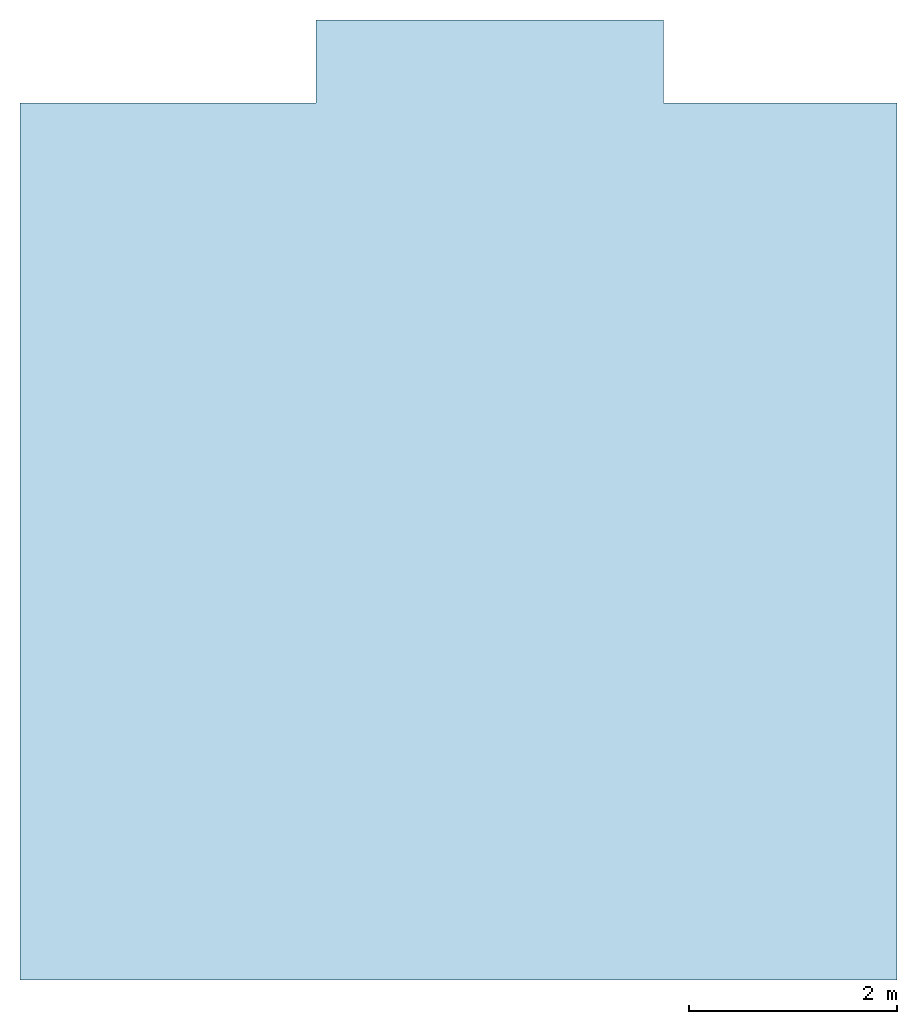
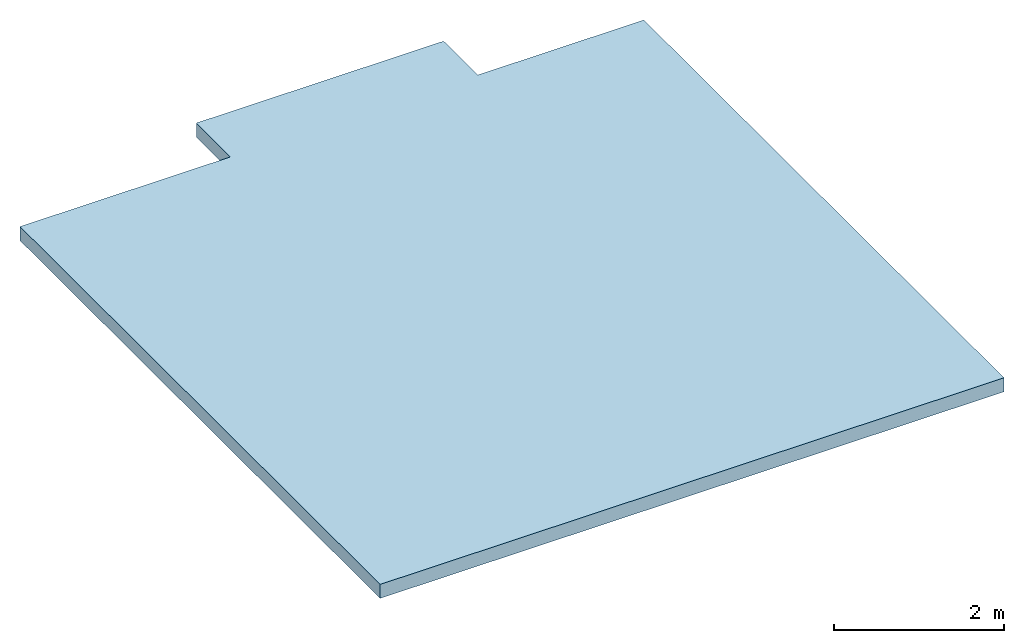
# One storey: 1 slab.
"""IFC2X3 building model written with IfcOpenShell, lengths in millimetres."""

from ifc_helpers import new_model, entity, si_unit, converted_unit, derived_unit, money_unit, direction, frame, origin_with_axes, place, context, subcontext, project, spatial, polyline, outline, extrude, material, layer, layer_set, layer_usage, type_object, element, save


model = new_model("IFC2X3")

# Units and contexts
model_context = context("Model", 3, precision=0.01, world=origin_with_axes(), true_north=direction((0.0, 1.0)))
body_context = subcontext(model_context, "Body", "Model", "MODEL_VIEW")
ifc_project = project(units=[si_unit("LENGTHUNIT", "METRE", prefix="MILLI"), si_unit("AREAUNIT", "SQUARE_METRE"), si_unit("VOLUMEUNIT", "CUBIC_METRE"), converted_unit("PLANEANGLEUNIT", "DEGREE", entity("IfcPlaneAngleMeasure", 0.0174532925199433), si_unit("PLANEANGLEUNIT", "RADIAN"), dimensions=[0, 0, 0, 0, 0, 0, 0]), money_unit("USD"), converted_unit("TIMEUNIT", "Year", entity("IfcTimeMeasure", 31557600.0), si_unit("TIMEUNIT", "SECOND"), dimensions=[0, 0, 1, 0, 0, 0, 0]), si_unit("MASSUNIT", "GRAM", prefix="KILO"), si_unit("THERMODYNAMICTEMPERATUREUNIT", "DEGREE_CELSIUS"), si_unit("LUMINOUSINTENSITYUNIT", "LUMEN"), si_unit("ENERGYUNIT", "JOULE", prefix="MEGA"), derived_unit("THERMALCONDUCTANCEUNIT", [(si_unit("POWERUNIT", "WATT"), 1), (si_unit("LENGTHUNIT", "METRE"), -1), (si_unit("THERMODYNAMICTEMPERATUREUNIT", "KELVIN"), -1)]), derived_unit("SPECIFICHEATCAPACITYUNIT", [(si_unit("ENERGYUNIT", "JOULE"), 1), (si_unit("MASSUNIT", "GRAM", prefix="KILO"), -1), (si_unit("THERMODYNAMICTEMPERATUREUNIT", "KELVIN"), -1)]), derived_unit("MASSDENSITYUNIT", [(si_unit("MASSUNIT", "GRAM", prefix="KILO"), 1), (si_unit("VOLUMEUNIT", "CUBIC_METRE"), -1)])], contexts=[model_context])

# Site, building, storey
site_placement = place(None, origin_with_axes())
site = spatial("IfcSite", under=ifc_project, at=site_placement, Name="Local", CompositionType="ELEMENT")
building_placement = place(site_placement, origin_with_axes())
building = spatial("IfcBuilding", under=site, at=building_placement, Name="Construção", CompositionType="ELEMENT")
storey_placement = place(building_placement, frame((0.0, 0.0, -280.0), z_axis=(0.0, 0.0, 1.0), x_axis=(1.0, 0.0, 0.0)))
storey = spatial("IfcBuildingStorey", under=building, at=storey_placement, Name="Fundação", CompositionType="ELEMENT", Elevation=-280.0)

# Slab
ifc_material = material(Name="Concreto Armado - Estrutural")
ifc_layer = layer(ifc_material, 200.0, ventilated="UNKNOWN")
ifc_layer_set = layer_set([ifc_layer], Name="Concreto Armado - Estrutural 200")
ifc_layer_usage = layer_usage(ifc_layer_set, "AXIS3", "NEGATIVE", 200.0)
slab_type = type_object("IfcSlabType", Name="Concreto Armado - Estrutural 200", PredefinedType="NOTDEFINED")
slab_placement = place(storey_placement, frame((-1000.0, -1000.0, 0.0), z_axis=(0.0, 0.0, 1.0), x_axis=(1.0, 0.0, 0.0)))
element("IfcSlab", 1, at=slab_placement, inside=storey, type_object=slab_type, material=ifc_layer_usage, Name="F01", PredefinedType="NOTDEFINED", context=body_context, shape_type="SweptSolid", body=[
    extrude(outline(polyline([(0.0, 0.0), (8449.999999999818, 0.0), (8449.999999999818, 8450.000000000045), (6199.999999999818, 8450.000000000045), (6199.999999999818, 9250.0), (2850.000000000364, 9250.0), (2850.000000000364, 8450.000000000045), (0.0, 8450.000000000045), (0.0, 0.0)])), origin_with_axes(), (0.0, 0.0, 1.0), 200.0),
])

save(model, "model.ifc")
